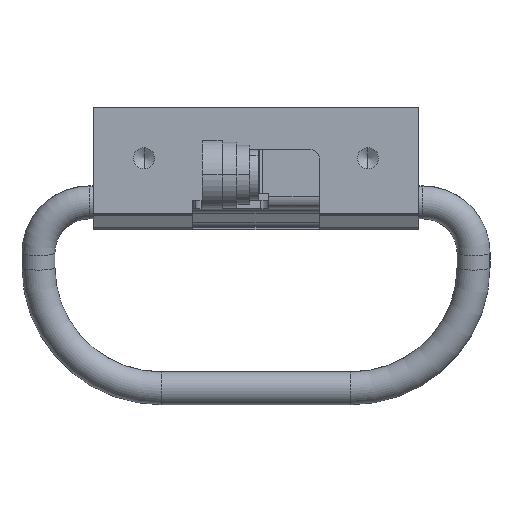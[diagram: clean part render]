
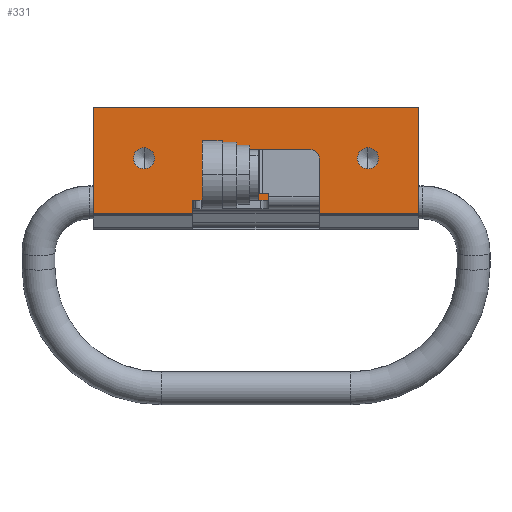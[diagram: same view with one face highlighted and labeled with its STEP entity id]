
A CAD part, top view. The second image highlights one B-rep face of the part: STEP entity #331.
In plain terms, the highlighted planar face has unit normal (0, 0, 1).
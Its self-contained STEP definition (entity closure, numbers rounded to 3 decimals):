
#331=ADVANCED_FACE('',(#747,#748,#749),#750,.T.);
#747=FACE_OUTER_BOUND('',#1260,.T.);
#748=FACE_BOUND('',#1261,.T.);
#749=FACE_BOUND('',#1262,.T.);
#750=PLANE('',#1263);
#1260=EDGE_LOOP('',(#2180,#2181,#2182,#2183,#2184,#2185,#2186,#2187));
#1261=EDGE_LOOP('',(#2188,#2189));
#1262=EDGE_LOOP('',(#2190,#2191));
#1263=AXIS2_PLACEMENT_3D('',#2192,#2193,#2194);
#2180=ORIENTED_EDGE('',*,*,#3341,.F.);
#2181=ORIENTED_EDGE('',*,*,#3361,.T.);
#2182=ORIENTED_EDGE('',*,*,#3362,.F.);
#2183=ORIENTED_EDGE('',*,*,#3350,.T.);
#2184=ORIENTED_EDGE('',*,*,#3359,.F.);
#2185=ORIENTED_EDGE('',*,*,#3363,.T.);
#2186=ORIENTED_EDGE('',*,*,#3364,.T.);
#2187=ORIENTED_EDGE('',*,*,#3320,.T.);
#2188=ORIENTED_EDGE('',*,*,#3065,.T.);
#2189=ORIENTED_EDGE('',*,*,#3365,.T.);
#2190=ORIENTED_EDGE('',*,*,#3074,.T.);
#2191=ORIENTED_EDGE('',*,*,#3366,.T.);
#2192=CARTESIAN_POINT('',(0.0,-6.92,-20.0));
#2193=DIRECTION('',(0.0,0.0,1.0));
#2194=DIRECTION('',(1.0,0.0,0.0));
#3065=EDGE_CURVE('',#3674,#3678,#3680,.T.);
#3074=EDGE_CURVE('',#3688,#3692,#3694,.T.);
#3320=EDGE_CURVE('',#4089,#4087,#4090,.T.);
#3341=EDGE_CURVE('',#4114,#4087,#4116,.T.);
#3350=EDGE_CURVE('',#4128,#4126,#4129,.T.);
#3359=EDGE_CURVE('',#4137,#4126,#4139,.T.);
#3361=EDGE_CURVE('',#4114,#4141,#4142,.T.);
#3362=EDGE_CURVE('',#4128,#4141,#4143,.T.);
#3363=EDGE_CURVE('',#4137,#4144,#4145,.T.);
#3364=EDGE_CURVE('',#4144,#4089,#4146,.T.);
#3365=EDGE_CURVE('',#3678,#3674,#4147,.T.);
#3366=EDGE_CURVE('',#3692,#3688,#4148,.T.);
#3674=VERTEX_POINT('',#4539);
#3678=VERTEX_POINT('',#4544);
#3680=CIRCLE('',#4547,2.5);
#3688=VERTEX_POINT('',#4557);
#3692=VERTEX_POINT('',#4562);
#3694=CIRCLE('',#4565,2.5);
#4087=VERTEX_POINT('',#5078);
#4089=VERTEX_POINT('',#5080);
#4090=LINE('',#5081,#5082);
#4114=VERTEX_POINT('',#5116);
#4116=LINE('',#5118,#5119);
#4126=VERTEX_POINT('',#5131);
#4128=VERTEX_POINT('',#5133);
#4129=LINE('',#5134,#5135);
#4137=VERTEX_POINT('',#5148);
#4139=LINE('',#5150,#5151);
#4141=VERTEX_POINT('',#5153);
#4142=LINE('',#5154,#5155);
#4143=LINE('',#5156,#5157);
#4144=VERTEX_POINT('',#5158);
#4145=LINE('',#5159,#5160);
#4146=LINE('',#5161,#5162);
#4147=CIRCLE('',#5163,2.5);
#4148=CIRCLE('',#5164,2.5);
#4539=CARTESIAN_POINT('',(-26.5,7.5,-20.0));
#4544=CARTESIAN_POINT('',(-26.5,12.5,-20.0));
#4547=AXIS2_PLACEMENT_3D('',#5675,#5676,#5677);
#4557=CARTESIAN_POINT('',(26.5,7.5,-20.0));
#4562=CARTESIAN_POINT('',(26.5,12.5,-20.0));
#4565=AXIS2_PLACEMENT_3D('',#5688,#5689,#5690);
#5078=CARTESIAN_POINT('',(15.0,-3.152,-20.0));
#5080=CARTESIAN_POINT('',(15.0,0.,-20.0));
#5081=CARTESIAN_POINT('',(15.0,-6.92,-20.0));
#5082=VECTOR('',#6045,10.0);
#5116=CARTESIAN_POINT('',(38.5,-3.152,-20.0));
#5118=CARTESIAN_POINT('',(19.25,-3.152,-20.0));
#5119=VECTOR('',#6071,10.0);
#5131=CARTESIAN_POINT('',(-38.5,-3.152,-20.0));
#5133=CARTESIAN_POINT('',(-38.5,22.08,-20.0));
#5134=CARTESIAN_POINT('',(-38.5,22.08,-20.0));
#5135=VECTOR('',#6086,10.0);
#5148=CARTESIAN_POINT('',(-15.0,-3.152,-20.0));
#5150=CARTESIAN_POINT('',(-19.25,-3.152,-20.0));
#5151=VECTOR('',#6095,10.0);
#5153=CARTESIAN_POINT('',(38.5,22.08,-20.0));
#5154=CARTESIAN_POINT('',(38.5,22.08,-20.0));
#5155=VECTOR('',#6096,10.0);
#5156=CARTESIAN_POINT('',(0.0,22.08,-20.0));
#5157=VECTOR('',#6097,10.0);
#5158=CARTESIAN_POINT('',(-15.0,0.,-20.0));
#5159=CARTESIAN_POINT('',(-15.0,-6.92,-20.0));
#5160=VECTOR('',#6098,10.0);
#5161=CARTESIAN_POINT('',(-15.0,0.,-20.0));
#5162=VECTOR('',#6099,10.0);
#5163=AXIS2_PLACEMENT_3D('',#6100,#6101,#6102);
#5164=AXIS2_PLACEMENT_3D('',#6103,#6104,#6105);
#5675=CARTESIAN_POINT('',(-26.5,10.0,-20.0));
#5676=DIRECTION('',(0.0,0.0,-1.0));
#5677=DIRECTION('',(0.0,-1.0,0.0));
#5688=CARTESIAN_POINT('',(26.5,10.0,-20.0));
#5689=DIRECTION('',(0.0,0.0,-1.0));
#5690=DIRECTION('',(0.0,-1.0,0.0));
#6045=DIRECTION('',(0.0,-1.0,0.0));
#6071=DIRECTION('',(-1.0,-0.0,0.0));
#6086=DIRECTION('',(0.0,-1.0,0.0));
#6095=DIRECTION('',(-1.0,-0.0,0.0));
#6096=DIRECTION('',(0.0,1.0,0.0));
#6097=DIRECTION('',(1.0,0.0,0.0));
#6098=DIRECTION('',(0.0,1.0,0.0));
#6099=DIRECTION('',(1.0,0.0,0.0));
#6100=CARTESIAN_POINT('',(-26.5,10.0,-20.0));
#6101=DIRECTION('',(0.0,0.0,-1.0));
#6102=DIRECTION('',(0.0,-1.0,0.0));
#6103=CARTESIAN_POINT('',(26.5,10.0,-20.0));
#6104=DIRECTION('',(0.0,0.0,-1.0));
#6105=DIRECTION('',(0.0,-1.0,0.0));
